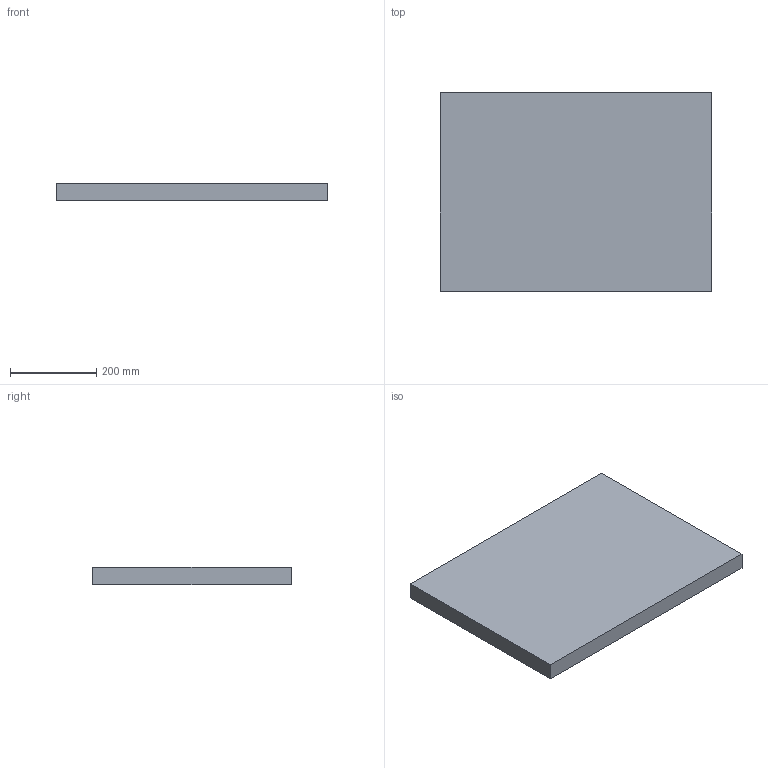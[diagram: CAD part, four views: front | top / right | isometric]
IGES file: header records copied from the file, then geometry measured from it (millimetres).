
Start section: Data from Parasolid IGES Translator 19.0.9, Copyright(c) 2006 Siemens PL M Software. All Rights Reserved.
Global section: file name: noorth-SI-H 4 D 46 W mtl-9_2514.igs; native system: By Siemens PLM Incorporated; preprocessor: XPlus GENERIC/IGES 19.0.9; author: Noname; organization: Noname; date: 20200601.142905; units: metre
Bounding box: 630 x 460 x 40 mm (x, y, z)
Volume: 11592000 mm3; surface area: 666800 mm2
Topology: 1 solids, 1 shells, 6 faces, 12 edges, 8 vertices
Faces by surface type: plane 6
